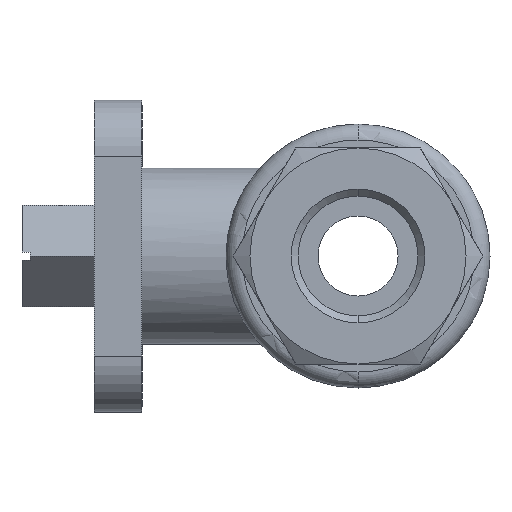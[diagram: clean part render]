
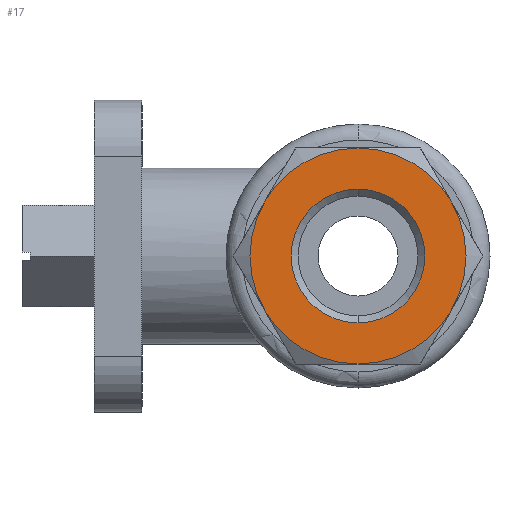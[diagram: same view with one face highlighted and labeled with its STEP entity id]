
A CAD part, left-side view. The second image highlights one B-rep face of the part: STEP entity #17.
In plain terms, the highlighted planar face has unit normal (-1, 0, 0).
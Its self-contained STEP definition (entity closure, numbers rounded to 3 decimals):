
#17 = ADVANCED_FACE ( 'NONE', ( #2714, #2722 ), #2450, .F. ) ;
#575 = CARTESIAN_POINT ( 'NONE',  ( -33.5, 0., 0. ) ) ;
#576 = DIRECTION ( 'NONE',  ( 1., 0., 0. ) ) ;
#577 = DIRECTION ( 'NONE',  ( 0., 0., -1. ) ) ;
#578 = CARTESIAN_POINT ( 'NONE',  ( -33.5, 0., 0. ) ) ;
#579 = DIRECTION ( 'NONE',  ( 1., 0., 0. ) ) ;
#580 = DIRECTION ( 'NONE',  ( 0., 0., -1. ) ) ;
#581 = CARTESIAN_POINT ( 'NONE',  ( -33.5, 0., 0. ) ) ;
#582 = DIRECTION ( 'NONE',  ( -1., 0., 0. ) ) ;
#583 = DIRECTION ( 'NONE',  ( 0., 0., 1. ) ) ;
#584 = CARTESIAN_POINT ( 'NONE',  ( -33.5, 0., 0. ) ) ;
#585 = DIRECTION ( 'NONE',  ( 1., 0., 0. ) ) ;
#586 = DIRECTION ( 'NONE',  ( 0., 0., -1. ) ) ;
#587 = CARTESIAN_POINT ( 'NONE',  ( -33.5, 0., 0. ) ) ;
#588 = DIRECTION ( 'NONE',  ( 1., 0., 0. ) ) ;
#589 = DIRECTION ( 'NONE',  ( 0., 0., -1. ) ) ;
#590 = CARTESIAN_POINT ( 'NONE',  ( -33.5, 0., 0. ) ) ;
#591 = DIRECTION ( 'NONE',  ( 1., 0., 0. ) ) ;
#592 = DIRECTION ( 'NONE',  ( 0., 0., -1. ) ) ;
#593 = CARTESIAN_POINT ( 'NONE',  ( -33.5, 0., 0. ) ) ;
#594 = DIRECTION ( 'NONE',  ( 1., 0., 0. ) ) ;
#595 = DIRECTION ( 'NONE',  ( 0., 0., -1. ) ) ;
#667 = CARTESIAN_POINT ( 'NONE',  ( -33.5, 0., 0. ) ) ;
#668 = DIRECTION ( 'NONE',  ( -1., 0., 0. ) ) ;
#669 = DIRECTION ( 'NONE',  ( 0., 0., 1. ) ) ;
#1443 = CARTESIAN_POINT ( 'NONE',  ( -33.5, 11.691, -6.75 ) ) ;
#1473 = CARTESIAN_POINT ( 'NONE',  ( -33.5, 0., 13.5 ) ) ;
#1491 = CARTESIAN_POINT ( 'NONE',  ( -33.5, -11.691, -6.75 ) ) ;
#1497 = CARTESIAN_POINT ( 'NONE',  ( -33.5, 11.691, 6.75 ) ) ;
#1513 = CARTESIAN_POINT ( 'NONE',  ( -33.5, 0., 8.356 ) ) ;
#1541 = CARTESIAN_POINT ( 'NONE',  ( -33.5, 0., -13.5 ) ) ;
#1543 = CARTESIAN_POINT ( 'NONE',  ( -33.5, -11.691, 6.75 ) ) ;
#1548 = CARTESIAN_POINT ( 'NONE',  ( -33.5, 0., -8.356 ) ) ;
#1798 = EDGE_CURVE ( 'NONE', #2290, #2344, #3734, .T. ) ;
#1799 = EDGE_CURVE ( 'NONE', #2388, #2290, #3735, .T. ) ;
#1800 = EDGE_CURVE ( 'NONE', #2360, #2395, #3736, .T. ) ;
#1801 = EDGE_CURVE ( 'NONE', #2320, #2390, #3737, .T. ) ;
#1802 = EDGE_CURVE ( 'NONE', #2344, #2320, #3738, .T. ) ;
#1803 = EDGE_CURVE ( 'NONE', #2390, #2338, #3739, .T. ) ;
#1804 = EDGE_CURVE ( 'NONE', #2338, #2388, #3740, .T. ) ;
#1826 = EDGE_CURVE ( 'NONE', #2395, #2360, #3763, .T. ) ;
#2003 = AXIS2_PLACEMENT_3D ( 'NONE', #2449, #2451, #2452 ) ;
#2115 = AXIS2_PLACEMENT_3D ( 'NONE', #581, #582, #583 ) ;
#2116 = AXIS2_PLACEMENT_3D ( 'NONE', #584, #585, #586 ) ;
#2118 = AXIS2_PLACEMENT_3D ( 'NONE', #575, #576, #577 ) ;
#2119 = AXIS2_PLACEMENT_3D ( 'NONE', #578, #579, #580 ) ;
#2120 = AXIS2_PLACEMENT_3D ( 'NONE', #587, #588, #589 ) ;
#2121 = AXIS2_PLACEMENT_3D ( 'NONE', #590, #591, #592 ) ;
#2122 = AXIS2_PLACEMENT_3D ( 'NONE', #593, #594, #595 ) ;
#2143 = AXIS2_PLACEMENT_3D ( 'NONE', #667, #668, #669 ) ;
#2290 = VERTEX_POINT ( 'NONE', #1443 ) ;
#2320 = VERTEX_POINT ( 'NONE', #1473 ) ;
#2338 = VERTEX_POINT ( 'NONE', #1491 ) ;
#2344 = VERTEX_POINT ( 'NONE', #1497 ) ;
#2360 = VERTEX_POINT ( 'NONE', #1513 ) ;
#2388 = VERTEX_POINT ( 'NONE', #1541 ) ;
#2390 = VERTEX_POINT ( 'NONE', #1543 ) ;
#2395 = VERTEX_POINT ( 'NONE', #1548 ) ;
#2449 = CARTESIAN_POINT ( 'NONE',  ( -33.5, 15.588, 0. ) ) ;
#2450 = PLANE ( 'NONE',  #2003 ) ;
#2451 = DIRECTION ( 'NONE',  ( 1., 0., 0. ) ) ;
#2452 = DIRECTION ( 'NONE',  ( 0., 0., -1. ) ) ;
#2714 = FACE_BOUND ( 'NONE', #3166, .T. ) ;
#2722 = FACE_OUTER_BOUND ( 'NONE', #3162, .T. ) ;
#3162 = EDGE_LOOP ( 'NONE', ( #3561, #3539, #3576, #3581, #3586, #3527 ) ) ;
#3166 = EDGE_LOOP ( 'NONE', ( #3555, #3556 ) ) ;
#3527 = ORIENTED_EDGE ( 'NONE', *, *, #1798, .F. ) ;
#3539 = ORIENTED_EDGE ( 'NONE', *, *, #1804, .F. ) ;
#3555 = ORIENTED_EDGE ( 'NONE', *, *, #1800, .F. ) ;
#3556 = ORIENTED_EDGE ( 'NONE', *, *, #1826, .F. ) ;
#3561 = ORIENTED_EDGE ( 'NONE', *, *, #1799, .F. ) ;
#3576 = ORIENTED_EDGE ( 'NONE', *, *, #1803, .F. ) ;
#3581 = ORIENTED_EDGE ( 'NONE', *, *, #1801, .F. ) ;
#3586 = ORIENTED_EDGE ( 'NONE', *, *, #1802, .F. ) ;
#3734 = CIRCLE ( 'NONE', #2118, 13.5 ) ;
#3735 = CIRCLE ( 'NONE', #2119, 13.5 ) ;
#3736 = CIRCLE ( 'NONE', #2115, 8.356 ) ;
#3737 = CIRCLE ( 'NONE', #2116, 13.5 ) ;
#3738 = CIRCLE ( 'NONE', #2120, 13.5 ) ;
#3739 = CIRCLE ( 'NONE', #2121, 13.5 ) ;
#3740 = CIRCLE ( 'NONE', #2122, 13.5 ) ;
#3763 = CIRCLE ( 'NONE', #2143, 8.356 ) ;
